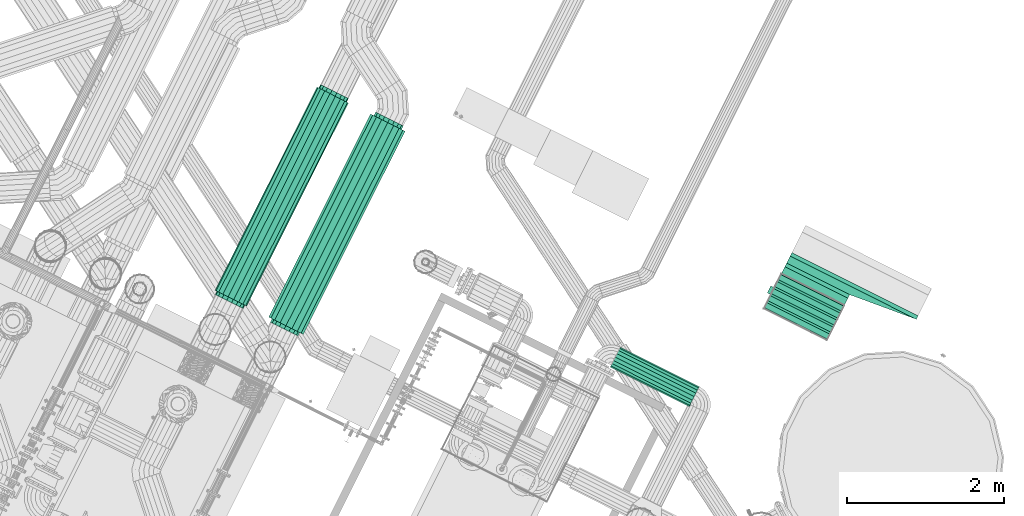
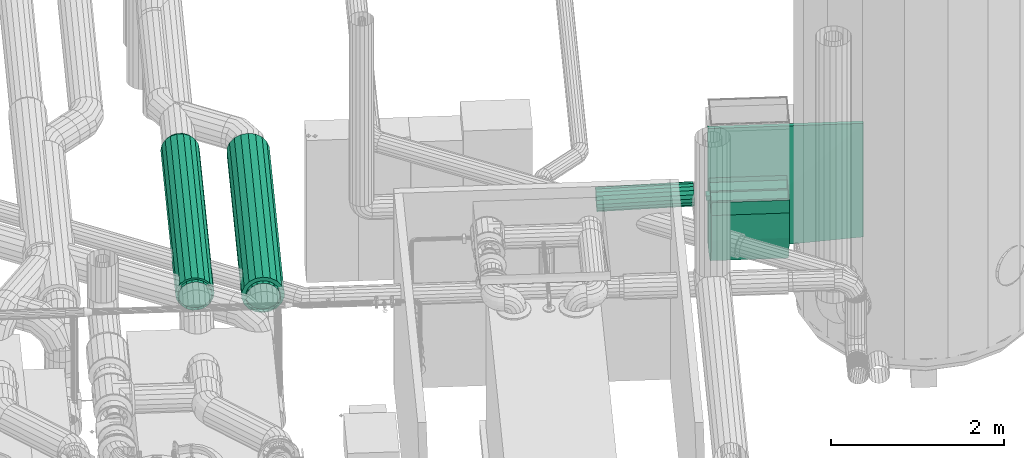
# One storey, part 24 of 206: 2 flow fittings, 2 flow treatment devices, 1 flow controller, 1 flow segment.
"""IFC2X3 building model written with IfcOpenShell, lengths in metres."""

from ifc_helpers import new_model, si_unit, derived_unit, direction, frame, origin, place, context, subcontext, project, spatial, face_set, surface_model, source, transform, mapped, material, type_object, type_shapes, element, save


model = new_model("IFC2X3")

# Units and contexts
model_context = context("Model", 3, precision=5.2338327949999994e-05, world=origin(), true_north=direction((0.0, 1.0)))
body_context = subcontext(model_context, "Body", "Model", "MODEL_VIEW")
ifc_project = project(units=[si_unit("LENGTHUNIT", "METRE"), si_unit("AREAUNIT", "SQUARE_METRE"), si_unit("VOLUMEUNIT", "CUBIC_METRE"), si_unit("MASSUNIT", "GRAM", prefix="KILO"), si_unit("PLANEANGLEUNIT", "RADIAN"), derived_unit("THERMALTRANSMITTANCEUNIT", [(si_unit("MASSUNIT", "GRAM", prefix="KILO"), 1), (si_unit("THERMODYNAMICTEMPERATUREUNIT", "KELVIN"), -1), (si_unit("TIMEUNIT", "SECOND"), -3)])], contexts=[model_context])

# Site, building, storey
site_placement = place(None, frame((0.0, 0.0, 0.0), z_axis=(0.0, 0.0, 1.0), x_axis=(0.8939966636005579, -0.4480736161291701, 0.0)))
site = spatial("IfcSite", under=ifc_project, at=site_placement, Name="Default", CompositionType="ELEMENT")
building_placement = place(site_placement, origin())
building = spatial("IfcBuilding", under=site, at=building_placement, CompositionType="ELEMENT")
storey_placement = place(building_placement, origin())
storey = spatial("IfcBuildingStorey", under=building, at=storey_placement, Name="Erdgeschoss", CompositionType="ELEMENT", Elevation=0.0)

# Flow treatment device
ifc_material_1 = material(Name="IfcSurfaceStyle #280217")
distribution_element_type_1 = type_object("IfcDistributionElementType", Name="Telefonieschalldämpfer 294722:Telefonieschalldämpfer 294722", material=ifc_material_1)
shared_shape_1 = source(origin(), body_context, "Body", "SurfaceModel", [
    surface_model("IfcFaceBasedSurfaceModel", [(27.31550898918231, 8.828208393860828, 2.400000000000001), (27.38391301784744, 8.828208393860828, 2.3879385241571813), (27.38391301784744, 8.878208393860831, 2.387938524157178), (27.31550898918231, 8.878208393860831, 2.3999999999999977), (27.444066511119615, 8.828208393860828, 2.3532088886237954), (27.444066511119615, 8.87820839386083, 2.3532088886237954), (27.4887140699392, 8.82820839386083, 2.300000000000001), (27.4887140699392, 8.878208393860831, 2.299999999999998), (27.51247053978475, 8.82820839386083, 2.2347296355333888), (27.51247053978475, 8.878208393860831, 2.2347296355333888), (27.51247053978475, 8.828208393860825, 2.165270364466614), (27.512470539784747, 8.878208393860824, 2.165270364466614), (27.4887140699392, 8.828208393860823, 2.1), (27.4887140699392, 8.878208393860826, 2.1), (27.44406651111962, 8.82820839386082, 2.0467911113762), (27.44406651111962, 8.878208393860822, 2.0467911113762), (27.383913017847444, 8.82820839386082, 2.012061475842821), (27.383913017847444, 8.878208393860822, 2.0120614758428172), (27.31550898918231, 8.82820839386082, 2.0), (27.31550898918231, 8.878208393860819, 2.0), (27.24710496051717, 8.828208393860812, 2.0120614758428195), (27.247104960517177, 8.878208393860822, 2.012061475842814), (27.186951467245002, 8.828208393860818, 2.0467911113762), (27.186951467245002, 8.87820839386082, 2.0467911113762), (27.14230390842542, 8.82820839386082, 2.099999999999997), (27.14230390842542, 8.878208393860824, 2.099999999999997), (27.118547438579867, 8.828208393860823, 2.165270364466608), (27.118547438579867, 8.87820839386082, 2.165270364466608), (27.118547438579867, 8.828208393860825, 2.234729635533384), (27.118547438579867, 8.87820839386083, 2.234729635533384), (27.14230390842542, 8.828208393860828, 2.299999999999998), (27.14230390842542, 8.87820839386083, 2.299999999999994), (27.186951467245, 8.828208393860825, 2.3532088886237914), (27.186951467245, 8.878208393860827, 2.353208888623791), (27.247104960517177, 8.828208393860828, 2.387938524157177), (27.247104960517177, 8.878208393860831, 2.3879385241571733), (27.315508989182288, 11.77820839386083, 2.399999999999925), (27.38391301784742, 11.77820839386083, 2.387938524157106), (27.38391301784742, 11.828208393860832, 2.3879385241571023), (27.315508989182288, 11.828208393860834, 2.3999999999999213), (27.444066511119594, 11.77820839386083, 2.353208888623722), (27.444066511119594, 11.828208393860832, 2.353208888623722), (27.488714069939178, 11.77820839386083, 2.2999999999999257), (27.488714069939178, 11.828208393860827, 2.2999999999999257), (27.51247053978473, 11.77820839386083, 2.234729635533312), (27.512470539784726, 11.828208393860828, 2.2347296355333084), (27.51247053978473, 11.778208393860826, 2.165270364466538), (27.51247053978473, 11.828208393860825, 2.165270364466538), (27.488714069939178, 11.778208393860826, 2.099999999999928), (27.488714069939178, 11.828208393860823, 2.099999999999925), (27.444066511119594, 11.778208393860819, 2.0467911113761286), (27.444066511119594, 11.828208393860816, 2.046791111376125), (27.38391301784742, 11.77820839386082, 2.0120614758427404), (27.38391301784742, 11.828208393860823, 2.0120614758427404), (27.315508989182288, 11.77820839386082, 2.0), (27.315508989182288, 11.828208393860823, 2.0), (27.247104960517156, 11.77820839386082, 2.0120614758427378), (27.247104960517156, 11.828208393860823, 2.012061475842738), (27.18695146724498, 11.778208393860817, 2.0467911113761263), (27.18695146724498, 11.828208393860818, 2.046791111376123), (27.142303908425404, 11.77820839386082, 2.0999999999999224), (27.142303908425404, 11.828208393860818, 2.099999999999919), (27.118547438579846, 11.77820839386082, 2.1652703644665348), (27.118547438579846, 11.828208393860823, 2.1652703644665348), (27.118547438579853, 11.778208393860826, 2.2347296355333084), (27.11854743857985, 11.828208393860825, 2.234729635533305), (27.142303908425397, 11.77820839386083, 2.2999999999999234), (27.142303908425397, 11.828208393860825, 2.299999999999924), (27.186951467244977, 11.77820839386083, 2.3532088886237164), (27.186951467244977, 11.828208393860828, 2.3532088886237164), (27.247104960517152, 11.77820839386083, 2.387938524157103), (27.247104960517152, 11.828208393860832, 2.3879385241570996), (27.31550898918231, 8.87820839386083, 2.4499999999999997), (27.40101402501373, 8.87820839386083, 2.4349231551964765), (27.40101402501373, 11.77820839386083, 2.4349231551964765), (27.31550898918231, 11.77820839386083, 2.4499999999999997), (27.47620589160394, 8.87820839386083, 2.3915111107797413), (27.47620589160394, 11.77820839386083, 2.3915111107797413), (27.532015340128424, 8.87820839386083, 2.3249999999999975), (27.532015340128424, 11.77820839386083, 2.3249999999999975), (27.561710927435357, 8.87820839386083, 2.2434120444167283), (27.561710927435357, 11.77820839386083, 2.2434120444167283), (27.561710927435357, 8.87820839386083, 2.156587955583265), (27.561710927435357, 11.77820839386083, 2.156587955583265), (27.532015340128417, 8.87820839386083, 2.0749999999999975), (27.532015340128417, 11.77820839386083, 2.0749999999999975), (27.476205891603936, 8.87820839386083, 2.0084888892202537), (27.476205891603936, 11.77820839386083, 2.0084888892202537), (27.401014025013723, 8.87820839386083, 1.9650768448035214), (27.401014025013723, 11.77820839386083, 1.9650768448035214), (27.31550898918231, 8.87820839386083, 1.9500000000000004), (27.31550898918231, 11.77820839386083, 1.9500000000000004), (27.230003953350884, 8.87820839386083, 1.9650768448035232), (27.230003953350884, 11.77820839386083, 1.9650768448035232), (27.154812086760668, 8.87820839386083, 2.0084888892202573), (27.154812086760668, 11.77820839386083, 2.0084888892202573), (27.09900263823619, 8.87820839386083, 2.0750000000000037), (27.09900263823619, 11.77820839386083, 2.0750000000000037), (27.069307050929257, 8.87820839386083, 2.156587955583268), (27.069307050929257, 11.77820839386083, 2.156587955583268), (27.069307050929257, 8.87820839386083, 2.2434120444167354), (27.069307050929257, 11.77820839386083, 2.2434120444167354), (27.099002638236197, 8.87820839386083, 2.3250000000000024), (27.099002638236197, 11.77820839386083, 2.3250000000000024), (27.15481208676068, 8.87820839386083, 2.3915111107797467), (27.15481208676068, 11.77820839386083, 2.3915111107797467), (27.230003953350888, 8.87820839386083, 2.434923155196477), (27.230003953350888, 11.77820839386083, 2.434923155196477), (27.31550898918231, 8.878208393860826, 2.199999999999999), (27.315508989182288, 11.778208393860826, 2.1999999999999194)], [face_set([[[0, 1, 2, 3]], [[1, 4, 5, 2]], [[4, 6, 7, 5]], [[6, 8, 9, 7]], [[8, 10, 11, 9]], [[10, 12, 13, 11]], [[12, 14, 15, 13]], [[14, 16, 17, 15]], [[16, 18, 19, 17]], [[18, 20, 21, 19]], [[20, 22, 23, 21]], [[22, 24, 25, 23]], [[24, 26, 27, 25]], [[26, 28, 29, 27]], [[28, 30, 31, 29]], [[30, 32, 33, 31]], [[32, 34, 35, 33]], [[34, 0, 3, 35]], [[36, 37, 38, 39]], [[37, 40, 41, 38]], [[40, 42, 43, 41]], [[42, 44, 45, 43]], [[44, 46, 47, 45]], [[46, 48, 49, 47]], [[48, 50, 51, 49]], [[50, 52, 53, 51]], [[52, 54, 55, 53]], [[54, 56, 57, 55]], [[56, 58, 59, 57]], [[58, 60, 61, 59]], [[60, 62, 63, 61]], [[62, 64, 65, 63]], [[64, 66, 67, 65]], [[66, 68, 69, 67]], [[68, 70, 71, 69]], [[70, 36, 39, 71]], [[72, 73, 74, 75]], [[73, 76, 77, 74]], [[76, 78, 79, 77]], [[78, 80, 81, 79]], [[80, 82, 83, 81]], [[82, 84, 85, 83]], [[84, 86, 87, 85]], [[86, 88, 89, 87]], [[88, 90, 91, 89]], [[90, 92, 93, 91]], [[92, 94, 95, 93]], [[94, 96, 97, 95]], [[96, 98, 99, 97]], [[98, 100, 101, 99]], [[100, 102, 103, 101]], [[102, 104, 105, 103]], [[104, 106, 107, 105]], [[106, 72, 75, 107]], [[108, 73, 72]], [[108, 76, 73]], [[108, 78, 76]], [[108, 80, 78]], [[108, 82, 80]], [[108, 84, 82]], [[108, 86, 84]], [[108, 88, 86]], [[108, 90, 88]], [[108, 92, 90]], [[108, 94, 92]], [[108, 96, 94]], [[108, 98, 96]], [[108, 100, 98]], [[108, 102, 100]], [[108, 104, 102]], [[108, 106, 104]], [[108, 72, 106]], [[109, 107, 75]], [[109, 105, 107]], [[109, 103, 105]], [[109, 101, 103]], [[109, 99, 101]], [[109, 97, 99]], [[109, 95, 97]], [[109, 93, 95]], [[109, 91, 93]], [[109, 89, 91]], [[109, 87, 89]], [[109, 85, 87]], [[109, 83, 85]], [[109, 81, 83]], [[109, 79, 81]], [[109, 77, 79]], [[109, 74, 77]], [[109, 75, 74]]])]),
])
type_shapes(distribution_element_type_1, [shared_shape_1])
flow_treatment_device_1_placement = place(storey_placement, origin())
element("IfcFlowTreatmentDevice", 1, at=flow_treatment_device_1_placement, inside=storey, type_object=distribution_element_type_1, material=ifc_material_1, Name="Telefonieschalldämpfer", ObjectType="Telefonieschalldämpfer", context=body_context, shape_type="MappedRepresentation", body=[
    mapped(shared_shape_1, transform((0.0, 0.0, 0.0), scale=1.0)),
])

# Flow segment
ifc_material_2 = material(Name="IfcSurfaceStyle #9317")
distribution_element_type_2 = type_object("IfcDistributionElementType", Name="Stahlrohr nach DIN 2448 346540:Stahlrohr nach DIN 2448 346540", material=ifc_material_2)
shared_shape_2 = source(origin(), body_context, "Body", "SurfaceModel", [
    surface_model("IfcFaceBasedSurfaceModel", [(31.25251131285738, 10.403208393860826, 2.3617932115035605), (31.252590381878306, 10.38800559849, 2.3591137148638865), (32.38021244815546, 10.38800559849, 2.392388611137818), (32.38013337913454, 10.403208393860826, 2.3950681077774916), (31.252818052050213, 10.374636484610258, 2.351398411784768), (32.38044011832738, 10.374636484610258, 2.3846733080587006), (31.253166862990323, 10.364713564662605, 2.3395778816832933), (32.38078892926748, 10.364713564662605, 2.372852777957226), (31.25359474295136, 10.359433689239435, 2.3250778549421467), (32.381216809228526, 10.35943368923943, 2.3583527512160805), (31.254050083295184, 10.359433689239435, 2.3096472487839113), (32.381672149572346, 10.35943368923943, 2.342922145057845), (31.254477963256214, 10.364713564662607, 2.295147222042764), (32.38210002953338, 10.364713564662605, 2.328422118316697), (31.25482677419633, 10.374636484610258, 2.283326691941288), (32.382448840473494, 10.374636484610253, 2.3166015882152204), (31.25505444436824, 10.388005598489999, 2.275611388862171), (32.3826765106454, 10.388005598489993, 2.308886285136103), (31.255133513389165, 10.403208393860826, 2.272931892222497), (32.38275557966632, 10.403208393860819, 2.3062067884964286), (31.255054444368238, 10.418411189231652, 2.275611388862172), (32.3826765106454, 10.418411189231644, 2.3088862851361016), (31.254826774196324, 10.431780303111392, 2.2833266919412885), (32.382448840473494, 10.431780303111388, 2.3166015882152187), (31.254477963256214, 10.441703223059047, 2.295147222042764), (32.38210002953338, 10.441703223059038, 2.328422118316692), (31.254050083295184, 10.446983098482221, 2.3096472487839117), (32.381672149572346, 10.446983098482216, 2.34292214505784), (31.25359474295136, 10.446983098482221, 2.325077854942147), (32.381216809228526, 10.446983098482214, 2.3583527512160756), (31.253166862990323, 10.441703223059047, 2.3395778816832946), (32.38078892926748, 10.441703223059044, 2.3728527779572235), (31.25281805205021, 10.431780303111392, 2.351398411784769), (32.38044011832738, 10.431780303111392, 2.3846733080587), (31.252590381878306, 10.418411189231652, 2.359113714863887), (32.38021244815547, 10.418411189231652, 2.3923886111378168), (31.249561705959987, 10.403208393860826, 2.4617497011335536), (31.2498186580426, 10.353803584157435, 2.453042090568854), (32.37744072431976, 10.353803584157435, 2.486316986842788), (32.377183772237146, 10.403208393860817, 2.4950245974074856), (31.250558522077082, 10.310357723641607, 2.427969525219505), (32.37818058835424, 10.310357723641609, 2.4612444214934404), (31.251692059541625, 10.278111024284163, 2.3895561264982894), (32.37931412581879, 10.278111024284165, 2.4228310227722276), (31.253082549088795, 10.260952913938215, 2.3424351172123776), (32.38070461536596, 10.260952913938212, 2.3757100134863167), (31.254562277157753, 10.260952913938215, 2.2922899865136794), (32.3821843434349, 10.260952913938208, 2.325564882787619), (31.25595276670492, 10.278111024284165, 2.2451689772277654), (32.38357483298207, 10.278111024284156, 2.278443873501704), (31.25708630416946, 10.310357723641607, 2.206755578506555), (32.384708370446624, 10.310357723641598, 2.240030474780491), (31.257826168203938, 10.353803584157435, 2.1816830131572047), (32.3854482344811, 10.353803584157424, 2.214957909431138), (31.258083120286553, 10.403208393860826, 2.1729754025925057), (32.38570518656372, 10.403208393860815, 2.206250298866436), (31.257826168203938, 10.452613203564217, 2.181683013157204), (32.3854482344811, 10.452613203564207, 2.2149579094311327), (31.25708630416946, 10.496059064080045, 2.206755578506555), (32.384708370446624, 10.496059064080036, 2.24003047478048), (31.25595276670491, 10.52830576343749, 2.2451689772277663), (32.38357483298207, 10.528305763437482, 2.2784438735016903), (31.254562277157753, 10.545463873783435, 2.29228998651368), (32.3821843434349, 10.545463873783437, 2.3255648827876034), (31.253082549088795, 10.545463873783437, 2.342435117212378), (32.38070461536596, 10.545463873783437, 2.3757100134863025), (31.251692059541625, 10.528305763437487, 2.3895561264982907), (32.37931412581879, 10.528305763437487, 2.4228310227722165), (31.250558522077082, 10.496059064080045, 2.427969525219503), (32.37818058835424, 10.496059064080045, 2.461244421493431), (31.249818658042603, 10.452613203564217, 2.4530420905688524), (32.37744072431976, 10.452613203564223, 2.486316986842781)], [face_set([[[0, 1, 2, 3]], [[1, 4, 5, 2]], [[4, 6, 7, 5]], [[6, 8, 9, 7]], [[8, 10, 11, 9]], [[10, 12, 13, 11]], [[12, 14, 15, 13]], [[14, 16, 17, 15]], [[16, 18, 19, 17]], [[18, 20, 21, 19]], [[20, 22, 23, 21]], [[22, 24, 25, 23]], [[24, 26, 27, 25]], [[26, 28, 29, 27]], [[28, 30, 31, 29]], [[30, 32, 33, 31]], [[32, 34, 35, 33]], [[34, 0, 3, 35]], [[36, 37, 38, 39]], [[37, 40, 41, 38]], [[40, 42, 43, 41]], [[42, 44, 45, 43]], [[44, 46, 47, 45]], [[46, 48, 49, 47]], [[48, 50, 51, 49]], [[50, 52, 53, 51]], [[52, 54, 55, 53]], [[54, 56, 57, 55]], [[56, 58, 59, 57]], [[58, 60, 61, 59]], [[60, 62, 63, 61]], [[62, 64, 65, 63]], [[64, 66, 67, 65]], [[66, 68, 69, 67]], [[68, 70, 71, 69]], [[70, 36, 39, 71]]])]),
])
type_shapes(distribution_element_type_2, [shared_shape_2])
flow_segment_placement = place(storey_placement, origin())
element("IfcFlowSegment", 2, at=flow_segment_placement, inside=storey, type_object=distribution_element_type_2, material=ifc_material_2, Name="Stahlrohr nach DIN 2448", ObjectType="Stahlrohr nach DIN 2448", context=body_context, shape_type="MappedRepresentation", body=[
    mapped(shared_shape_2, transform((0.0, 0.0, 0.0), scale=1.0)),
])

# Flow treatment device
distribution_element_type_3 = type_object("IfcDistributionElementType", Name="Telefonieschalldämpfer 621543:Telefonieschalldämpfer 621543", material=ifc_material_1)
shared_shape_3 = source(origin(), body_context, "Body", "SurfaceModel", [
    surface_model("IfcFaceBasedSurfaceModel", [(26.328825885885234, 8.828208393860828, 2.250000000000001), (26.340887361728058, 8.828208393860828, 2.318404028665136), (26.340887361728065, 8.878208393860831, 2.318404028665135), (26.32882588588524, 8.878208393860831, 2.2500000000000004), (26.375616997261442, 8.828208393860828, 2.3785575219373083), (26.375616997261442, 8.87820839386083, 2.3785575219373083), (26.428825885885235, 8.82820839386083, 2.423205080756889), (26.428825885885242, 8.878208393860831, 2.4232050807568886), (26.494096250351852, 8.82820839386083, 2.446961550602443), (26.494096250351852, 8.878208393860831, 2.446961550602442), (26.56355552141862, 8.828208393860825, 2.4469615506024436), (26.56355552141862, 8.878208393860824, 2.4469615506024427), (26.628825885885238, 8.828208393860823, 2.4232050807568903), (26.628825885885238, 8.878208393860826, 2.4232050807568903), (26.682034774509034, 8.82820839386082, 2.378557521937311), (26.682034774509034, 8.878208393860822, 2.37855752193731), (26.716764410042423, 8.82820839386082, 2.31840402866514), (26.716764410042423, 8.878208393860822, 2.3184040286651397), (26.728825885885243, 8.82820839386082, 2.250000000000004), (26.728825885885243, 8.878208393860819, 2.250000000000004), (26.71676441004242, 8.828208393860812, 2.181595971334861), (26.716764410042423, 8.878208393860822, 2.18159597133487), (26.682034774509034, 8.828208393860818, 2.121442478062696), (26.68203477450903, 8.87820839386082, 2.1214424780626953), (26.62882588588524, 8.82820839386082, 2.0767949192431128), (26.62882588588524, 8.878208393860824, 2.0767949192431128), (26.56355552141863, 8.828208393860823, 2.0530384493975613), (26.56355552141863, 8.87820839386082, 2.0530384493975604), (26.494096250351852, 8.828208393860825, 2.053038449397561), (26.494096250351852, 8.87820839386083, 2.0530384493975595), (26.428825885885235, 8.828208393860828, 2.0767949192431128), (26.428825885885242, 8.87820839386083, 2.0767949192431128), (26.37561699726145, 8.828208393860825, 2.121442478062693), (26.37561699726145, 8.878208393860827, 2.121442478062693), (26.34088736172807, 8.828208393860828, 2.181595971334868), (26.34088736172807, 8.878208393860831, 2.1815959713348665), (26.30382588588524, 8.878208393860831, 2.25), (26.31739504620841, 8.878208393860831, 2.326954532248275), (26.317395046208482, 11.77820839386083, 2.3269545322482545), (26.303825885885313, 11.77820839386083, 2.249999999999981), (26.356465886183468, 8.878208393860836, 2.39462721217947), (26.356465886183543, 11.77820839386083, 2.3946272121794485), (26.416325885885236, 8.878208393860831, 2.4448557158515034), (26.416325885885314, 11.77820839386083, 2.4448557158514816), (26.489755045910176, 8.878208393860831, 2.4715817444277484), (26.489755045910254, 11.778208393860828, 2.471581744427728), (26.567896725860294, 8.878208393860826, 2.471581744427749), (26.567896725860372, 11.778208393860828, 2.4715817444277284), (26.641325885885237, 8.878208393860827, 2.444855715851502), (26.64132588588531, 11.778208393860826, 2.4448557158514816), (26.701185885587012, 8.87820839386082, 2.3946272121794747), (26.70118588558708, 11.778208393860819, 2.3946272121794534), (26.74025672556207, 8.87820839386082, 2.3269545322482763), (26.74025672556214, 11.778208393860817, 2.3269545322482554), (26.753825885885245, 8.87820839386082, 2.2500000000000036), (26.75382588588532, 11.778208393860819, 2.2499999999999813), (26.74025672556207, 8.878208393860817, 2.173045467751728), (26.74025672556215, 11.778208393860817, 2.173045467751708), (26.701185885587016, 8.878208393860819, 2.1053727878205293), (26.701185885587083, 11.778208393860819, 2.105372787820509), (26.641325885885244, 8.878208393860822, 2.0551442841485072), (26.641325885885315, 11.77820839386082, 2.0551442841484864), (26.5678967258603, 8.878208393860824, 2.028418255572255), (26.567896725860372, 11.778208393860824, 2.0284182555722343), (26.489755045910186, 8.878208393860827, 2.0284182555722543), (26.489755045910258, 11.778208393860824, 2.028418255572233), (26.416325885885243, 8.878208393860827, 2.0551442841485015), (26.41632588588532, 11.778208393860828, 2.05514428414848), (26.356465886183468, 8.878208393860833, 2.1053727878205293), (26.356465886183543, 11.77820839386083, 2.10537278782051), (26.317395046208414, 8.878208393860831, 2.1730454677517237), (26.317395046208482, 11.77820839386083, 2.1730454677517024), (26.52882588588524, 8.878208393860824, 2.2500000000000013), (26.528825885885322, 11.778208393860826, 2.2499999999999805), (26.328825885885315, 11.77820839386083, 2.249999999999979), (26.340887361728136, 11.77820839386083, 2.3184040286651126), (26.34088736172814, 11.828208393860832, 2.3184040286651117), (26.328825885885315, 11.828208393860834, 2.2499999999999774), (26.375616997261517, 11.77820839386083, 2.3785575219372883), (26.375616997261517, 11.828208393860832, 2.3785575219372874), (26.42882588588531, 11.77820839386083, 2.423205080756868), (26.42882588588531, 11.828208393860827, 2.423205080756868), (26.494096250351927, 11.77820839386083, 2.4469615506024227), (26.49409625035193, 11.828208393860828, 2.4469615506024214), (26.5635555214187, 11.778208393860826, 2.4469615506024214), (26.5635555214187, 11.828208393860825, 2.4469615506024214), (26.628825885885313, 11.77820839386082, 2.423205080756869), (26.628825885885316, 11.828208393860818, 2.4232050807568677), (26.68203477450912, 11.778208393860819, 2.378557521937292), (26.68203477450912, 11.828208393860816, 2.378557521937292), (26.7167644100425, 11.77820839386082, 2.318404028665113), (26.7167644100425, 11.828208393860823, 2.3184040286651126), (26.728825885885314, 11.778208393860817, 2.249999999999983), (26.728825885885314, 11.828208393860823, 2.249999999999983), (26.7167644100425, 11.77820839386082, 2.181595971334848), (26.7167644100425, 11.828208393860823, 2.181595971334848), (26.68203477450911, 11.778208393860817, 2.121442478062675), (26.682034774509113, 11.828208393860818, 2.1214424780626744), (26.628825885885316, 11.77820839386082, 2.0767949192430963), (26.62882588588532, 11.828208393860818, 2.0767949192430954), (26.563555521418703, 11.77820839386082, 2.0530384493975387), (26.563555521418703, 11.828208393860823, 2.0530384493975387), (26.49409625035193, 11.778208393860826, 2.053038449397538), (26.494096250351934, 11.828208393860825, 2.0530384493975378), (26.428825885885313, 11.77820839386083, 2.0767949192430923), (26.428825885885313, 11.828208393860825, 2.0767949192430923), (26.375616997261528, 11.77820839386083, 2.1214424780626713), (26.375616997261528, 11.828208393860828, 2.12144247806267), (26.340887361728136, 11.77820839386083, 2.181595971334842), (26.340887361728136, 11.828208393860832, 2.181595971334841)], [face_set([[[0, 1, 2, 3]], [[1, 4, 5, 2]], [[4, 6, 7, 5]], [[6, 8, 9, 7]], [[8, 10, 11, 9]], [[10, 12, 13, 11]], [[12, 14, 15, 13]], [[14, 16, 17, 15]], [[16, 18, 19, 17]], [[18, 20, 21, 19]], [[20, 22, 23, 21]], [[22, 24, 25, 23]], [[24, 26, 27, 25]], [[26, 28, 29, 27]], [[28, 30, 31, 29]], [[30, 32, 33, 31]], [[32, 34, 35, 33]], [[34, 0, 3, 35]], [[36, 37, 38, 39]], [[37, 40, 41, 38]], [[40, 42, 43, 41]], [[42, 44, 45, 43]], [[44, 46, 47, 45]], [[46, 48, 49, 47]], [[48, 50, 51, 49]], [[50, 52, 53, 51]], [[52, 54, 55, 53]], [[54, 56, 57, 55]], [[56, 58, 59, 57]], [[58, 60, 61, 59]], [[60, 62, 63, 61]], [[62, 64, 65, 63]], [[64, 66, 67, 65]], [[66, 68, 69, 67]], [[68, 70, 71, 69]], [[70, 36, 39, 71]], [[72, 37, 36]], [[72, 40, 37]], [[72, 42, 40]], [[72, 44, 42]], [[72, 46, 44]], [[72, 48, 46]], [[72, 50, 48]], [[72, 52, 50]], [[72, 54, 52]], [[72, 56, 54]], [[72, 58, 56]], [[72, 60, 58]], [[72, 62, 60]], [[72, 64, 62]], [[72, 66, 64]], [[72, 68, 66]], [[72, 70, 68]], [[72, 36, 70]], [[73, 71, 39]], [[73, 69, 71]], [[73, 67, 69]], [[73, 65, 67]], [[73, 63, 65]], [[73, 61, 63]], [[73, 59, 61]], [[73, 57, 59]], [[73, 55, 57]], [[73, 53, 55]], [[73, 51, 53]], [[73, 49, 51]], [[73, 47, 49]], [[73, 45, 47]], [[73, 43, 45]], [[73, 41, 43]], [[73, 38, 41]], [[73, 39, 38]], [[74, 75, 76, 77]], [[75, 78, 79, 76]], [[78, 80, 81, 79]], [[80, 82, 83, 81]], [[82, 84, 85, 83]], [[84, 86, 87, 85]], [[86, 88, 89, 87]], [[88, 90, 91, 89]], [[90, 92, 93, 91]], [[92, 94, 95, 93]], [[94, 96, 97, 95]], [[96, 98, 99, 97]], [[98, 100, 101, 99]], [[100, 102, 103, 101]], [[102, 104, 105, 103]], [[104, 106, 107, 105]], [[106, 108, 109, 107]], [[108, 74, 77, 109]]])]),
])
type_shapes(distribution_element_type_3, [shared_shape_3])
flow_treatment_device_2_placement = place(storey_placement, origin())
element("IfcFlowTreatmentDevice", 3, at=flow_treatment_device_2_placement, inside=storey, type_object=distribution_element_type_3, material=ifc_material_1, Name="Telefonieschalldämpfer", ObjectType="Telefonieschalldämpfer", context=body_context, shape_type="MappedRepresentation", body=[
    mapped(shared_shape_3, transform((0.0, 0.0, 0.0), scale=1.0)),
])

# Flow fittings
ifc_material_3 = material(Name="IfcSurfaceStyle #271263")
distribution_element_type_4 = type_object("IfcDistributionElementType", Name="Übergang asymmetrisch 851519:Übergang asymmetrisch 851519", material=ifc_material_3)
shared_shape_4 = source(origin(), body_context, "Body", "SurfaceModel", [
    surface_model("IfcFaceBasedSurfaceModel", [(32.67, 12.606074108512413, 1.7499999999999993), (32.67, 12.556074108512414, 1.7499999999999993), (34.47, 12.556074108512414, 1.7499999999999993), (34.47, 12.606074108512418, 1.7499999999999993), (34.47, 12.556074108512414, 0.14999999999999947), (34.47, 12.606074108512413, 0.14999999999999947), (32.67, 12.556074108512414, 0.14999999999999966), (32.67, 12.606074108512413, 0.14999999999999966), (33.56999999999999, 12.456074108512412, 0.9499999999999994), (33.56999999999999, 12.406074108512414, 0.9499999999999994), (33.56999999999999, 12.406074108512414, 0.14999999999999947), (33.56999999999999, 12.456074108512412, 0.14999999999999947), (32.67, 12.406074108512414, 0.14999999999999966), (32.67, 12.456074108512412, 0.14999999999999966), (32.67, 12.406074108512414, 0.9499999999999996), (32.67, 12.456074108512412, 0.9499999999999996)], [face_set([[[0, 1, 2, 3]], [[3, 2, 4, 5]], [[5, 4, 6, 7]], [[7, 6, 1, 0]], [[8, 9, 10, 11]], [[11, 10, 12, 13]], [[13, 12, 14, 15]], [[15, 14, 9, 8]], [[6, 13, 15, 1]], [[11, 4, 2, 8]], [[2, 1, 15]], [[2, 15, 8]], [[4, 6, 13]], [[4, 13, 11]]])]),
])
type_shapes(distribution_element_type_4, [shared_shape_4])
flow_fitting_1_placement = place(storey_placement, origin())
element("IfcFlowFitting", 4, at=flow_fitting_1_placement, inside=storey, type_object=distribution_element_type_4, material=ifc_material_3, Name="Übergang asymmetrisch", ObjectType="Übergang asymmetrisch", context=body_context, shape_type="MappedRepresentation", body=[
    mapped(shared_shape_4, transform((0.0, 0.0, 0.0), scale=1.0)),
])
distribution_element_type_5 = type_object("IfcDistributionElementType", Name="Bogen asymmetrisch 851641:Bogen asymmetrisch 851641", material=ifc_material_3)
shared_shape_5 = source(origin(), body_context, "Body", "SurfaceModel", [
    surface_model("IfcFaceBasedSurfaceModel", [(33.56999999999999, 12.356074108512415, 0.15000000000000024), (33.56999999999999, 12.186114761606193, 0.1769189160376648), (32.67, 12.18611476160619, 0.17691891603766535), (32.67, 12.356074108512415, 0.1500000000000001), (33.56999999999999, 12.032792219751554, 0.255040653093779), (32.67, 12.032792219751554, 0.255040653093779), (33.56999999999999, 11.911114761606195, 0.3767181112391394), (32.67, 11.911114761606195, 0.3767181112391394), (33.56999999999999, 11.832993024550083, 0.5300406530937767), (32.67, 11.832993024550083, 0.5300406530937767), (33.56999999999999, 11.806074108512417, 0.6999999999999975), (32.67, 11.806074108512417, 0.6999999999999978), (32.67, 12.406074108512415, 0.1500000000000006), (33.56999999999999, 12.406074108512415, 0.1500000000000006), (32.67, 12.406074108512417, 0.9499999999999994), (32.67, 12.356074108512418, 0.9499999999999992), (33.56999999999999, 12.356074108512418, 0.9499999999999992), (33.56999999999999, 12.406074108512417, 0.9499999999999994), (33.56999999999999, 12.306074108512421, 1.0), (33.56999999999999, 12.308521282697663, 0.9845491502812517), (32.67, 12.308521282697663, 0.9845491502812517), (32.67, 12.306074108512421, 1.0), (33.56999999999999, 12.315623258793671, 0.9706107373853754), (32.67, 12.315623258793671, 0.9706107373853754), (33.56999999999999, 12.326684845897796, 0.9595491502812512), (32.67, 12.326684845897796, 0.9595491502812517), (33.56999999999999, 12.340623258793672, 0.9524471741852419), (32.67, 12.340623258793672, 0.9524471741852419), (32.67, 12.306074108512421, 1.0499999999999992), (33.56999999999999, 12.306074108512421, 1.0499999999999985), (32.67, 11.806074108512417, 1.0499999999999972), (33.56999999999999, 11.806074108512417, 1.0499999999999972)], [face_set([[[0, 1, 2, 3]], [[1, 4, 5, 2]], [[4, 6, 7, 5]], [[6, 8, 9, 7]], [[8, 10, 11, 9]], [[3, 12, 13, 0]], [[14, 15, 16, 17]], [[18, 19, 20, 21]], [[19, 22, 23, 20]], [[22, 24, 25, 23]], [[24, 26, 27, 25]], [[26, 16, 15, 27]], [[21, 28, 29, 18]], [[30, 11, 10, 31]], [[10, 8, 6]], [[10, 6, 4]], [[10, 4, 1]], [[10, 1, 0]], [[10, 0, 13]], [[10, 13, 17]], [[10, 17, 16]], [[10, 16, 26]], [[10, 26, 24]], [[10, 24, 22]], [[10, 22, 19]], [[10, 19, 18]], [[10, 18, 29]], [[10, 29, 31]], [[7, 9, 11]], [[5, 7, 11]], [[2, 5, 11]], [[3, 2, 11]], [[12, 3, 11]], [[14, 12, 11]], [[15, 14, 11]], [[27, 15, 11]], [[25, 27, 11]], [[23, 25, 11]], [[20, 23, 11]], [[21, 20, 11]], [[28, 21, 11]], [[30, 28, 11]]])]),
])
type_shapes(distribution_element_type_5, [shared_shape_5])
flow_fitting_2_placement = place(storey_placement, origin())
element("IfcFlowFitting", 5, at=flow_fitting_2_placement, inside=storey, type_object=distribution_element_type_5, material=ifc_material_3, Name="Bogen asymmetrisch", ObjectType="Bogen asymmetrisch", context=body_context, shape_type="MappedRepresentation", body=[
    mapped(shared_shape_5, transform((0.0, 0.0, 0.0), scale=1.0)),
])

# Flow controller
ifc_material_4 = material(Name="IfcSurfaceStyle #271082")
distribution_element_type_6 = type_object("IfcDistributionElementType", Name="Jalousieklappe:Jalousieklappe", material=ifc_material_4)
shared_shape_6 = source(origin(), body_context, "Body", "SurfaceModel", [
    surface_model("IfcFaceBasedSurfaceModel", [(32.67, 12.006074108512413, 1.1899999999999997), (32.67, 12.106074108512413, 1.1899999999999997), (32.62, 12.106074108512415, 1.1899999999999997), (32.62, 12.006074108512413, 1.1899999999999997), (32.67, 12.056074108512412, 1.0900000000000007), (32.62, 12.056074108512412, 1.0900000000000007), (32.67, 11.806074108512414, 1.0499999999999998), (32.67, 11.806074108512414, 1.2299999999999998), (32.67, 12.306074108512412, 1.2299999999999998), (32.67, 12.306074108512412, 1.0499999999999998), (33.56999999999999, 12.306074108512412, 1.2299999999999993), (33.56999999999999, 12.306074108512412, 1.0499999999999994), (33.56999999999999, 11.806074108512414, 1.2299999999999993), (33.56999999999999, 11.806074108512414, 1.0499999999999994), (32.67, 11.820724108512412, 1.1046499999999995), (33.56999999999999, 11.820724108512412, 1.1046499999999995), (33.56999999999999, 11.891424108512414, 1.1753499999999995), (32.67, 11.891424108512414, 1.1753499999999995), (32.67, 11.991424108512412, 1.1046500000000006), (33.56999999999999, 11.991424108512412, 1.1046500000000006), (33.56999999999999, 11.920724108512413, 1.1753500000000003), (32.67, 11.920724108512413, 1.1753500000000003), (32.67, 12.020724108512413, 1.1046499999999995), (33.56999999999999, 12.020724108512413, 1.1046499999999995), (33.56999999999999, 12.091424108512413, 1.1753499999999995), (32.67, 12.091424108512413, 1.1753499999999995), (32.67, 12.191424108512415, 1.1046499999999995), (33.56999999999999, 12.191424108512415, 1.1046499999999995), (33.56999999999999, 12.120724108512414, 1.1753499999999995), (32.67, 12.120724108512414, 1.1753499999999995), (32.67, 12.220724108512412, 1.1046499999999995), (33.56999999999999, 12.220724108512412, 1.1046499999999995), (33.56999999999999, 12.291424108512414, 1.1753499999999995), (32.67, 12.291424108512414, 1.1753499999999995)], [face_set([[[0, 1, 2, 3]], [[1, 4, 5, 2]], [[4, 0, 3, 5]], [[3, 2, 5]], [[4, 1, 0]], [[6, 7, 8, 9]], [[9, 8, 10, 11]], [[11, 10, 12, 13]], [[13, 12, 7, 6]], [[14, 15, 16, 17]], [[18, 19, 20, 21]], [[22, 23, 24, 25]], [[26, 27, 28, 29]], [[30, 31, 32, 33]]])]),
])
type_shapes(distribution_element_type_6, [shared_shape_6])
flow_controller_placement = place(storey_placement, origin())
element("IfcFlowController", 6, at=flow_controller_placement, inside=storey, type_object=distribution_element_type_6, material=ifc_material_4, Name="Jalousieklappe", ObjectType="Jalousieklappe", context=body_context, shape_type="MappedRepresentation", body=[
    mapped(shared_shape_6, transform((0.0, 0.0, 0.0), scale=1.0)),
])

save(model, "model.ifc")
